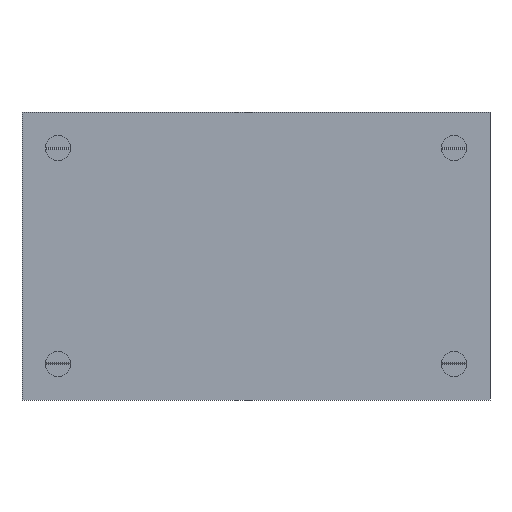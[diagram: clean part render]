
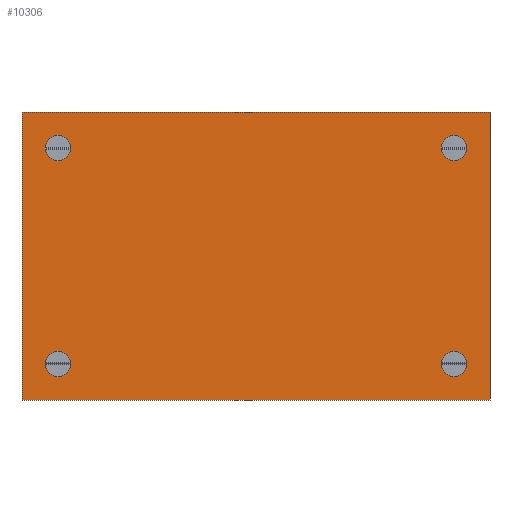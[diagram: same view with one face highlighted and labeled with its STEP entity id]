
A CAD part, front view. The second image highlights one B-rep face of the part: STEP entity #10306.
In plain terms, the highlighted planar face has unit normal (0, -1, 0).
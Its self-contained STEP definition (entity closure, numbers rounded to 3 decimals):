
#350=CIRCLE('',#10914,1.75);
#351=CIRCLE('',#10915,1.75);
#352=CIRCLE('',#10916,1.75);
#353=CIRCLE('',#10917,1.75);
#1058=ORIENTED_EDGE('',*,*,#4219,.T.);
#1059=ORIENTED_EDGE('',*,*,#4220,.F.);
#1060=ORIENTED_EDGE('',*,*,#4221,.F.);
#1061=ORIENTED_EDGE('',*,*,#4222,.F.);
#1062=ORIENTED_EDGE('',*,*,#4172,.T.);
#1063=ORIENTED_EDGE('',*,*,#4223,.F.);
#1064=ORIENTED_EDGE('',*,*,#4224,.F.);
#1065=ORIENTED_EDGE('',*,*,#4217,.T.);
#4172=EDGE_CURVE('',#5759,#5758,#6826,.T.);
#4217=EDGE_CURVE('',#5794,#5759,#6869,.T.);
#4219=EDGE_CURVE('',#5795,#5795,#350,.T.);
#4220=EDGE_CURVE('',#5796,#5796,#351,.T.);
#4221=EDGE_CURVE('',#5797,#5797,#352,.T.);
#4222=EDGE_CURVE('',#5798,#5798,#353,.T.);
#4223=EDGE_CURVE('',#5799,#5758,#6871,.T.);
#4224=EDGE_CURVE('',#5794,#5799,#6872,.T.);
#5758=VERTEX_POINT('',#15540);
#5759=VERTEX_POINT('',#15542);
#5794=VERTEX_POINT('',#15629);
#5795=VERTEX_POINT('',#15633);
#5796=VERTEX_POINT('',#15635);
#5797=VERTEX_POINT('',#15637);
#5798=VERTEX_POINT('',#15639);
#5799=VERTEX_POINT('',#15641);
#6826=LINE('',#15541,#7788);
#6869=LINE('',#15628,#7831);
#6871=LINE('',#15640,#7833);
#6872=LINE('',#15642,#7834);
#7788=VECTOR('',#12143,1000.);
#7831=VECTOR('',#12204,1000.);
#7833=VECTOR('',#12216,1000.);
#7834=VECTOR('',#12217,1000.);
#8735=EDGE_LOOP('',(#1058));
#8736=EDGE_LOOP('',(#1059));
#8737=EDGE_LOOP('',(#1060));
#8738=EDGE_LOOP('',(#1061));
#8739=EDGE_LOOP('',(#1062,#1063,#1064,#1065));
#9391=FACE_BOUND('',#8735,.T.);
#9392=FACE_BOUND('',#8736,.T.);
#9393=FACE_BOUND('',#8737,.T.);
#9394=FACE_BOUND('',#8738,.T.);
#9395=FACE_BOUND('',#8739,.T.);
#10045=PLANE('',#10913);
#10306=ADVANCED_FACE('',(#9391,#9392,#9393,#9394,#9395),#10045,.F.);
#10913=AXIS2_PLACEMENT_3D('',#15631,#12206,#12207);
#10914=AXIS2_PLACEMENT_3D('',#15632,#12208,#12209);
#10915=AXIS2_PLACEMENT_3D('',#15634,#12210,#12211);
#10916=AXIS2_PLACEMENT_3D('',#15636,#12212,#12213);
#10917=AXIS2_PLACEMENT_3D('',#15638,#12214,#12215);
#12143=DIRECTION('',(0.,0.,-1.));
#12204=DIRECTION('',(-1.,0.,0.));
#12206=DIRECTION('',(0.,1.,0.));
#12207=DIRECTION('',(0.,0.,1.));
#12208=DIRECTION('',(0.,1.,0.));
#12209=DIRECTION('',(0.,0.,1.));
#12210=DIRECTION('',(0.,-1.,0.));
#12211=DIRECTION('',(0.,0.,-1.));
#12212=DIRECTION('',(0.,-1.,0.));
#12213=DIRECTION('',(0.,0.,-1.));
#12214=DIRECTION('',(0.,-1.,0.));
#12215=DIRECTION('',(0.,0.,-1.));
#12216=DIRECTION('',(-1.,0.,0.));
#12217=DIRECTION('',(0.,0.,-1.));
#15540=CARTESIAN_POINT('',(0.,0.,-20.));
#15541=CARTESIAN_POINT('',(0.,0.,20.));
#15542=CARTESIAN_POINT('',(0.,0.,20.));
#15628=CARTESIAN_POINT('',(65.,0.,20.));
#15629=CARTESIAN_POINT('',(65.,0.,20.));
#15631=CARTESIAN_POINT('',(65.,0.,20.));
#15632=CARTESIAN_POINT('',(60.,0.,15.));
#15633=CARTESIAN_POINT('',(60.,0.,16.75));
#15634=CARTESIAN_POINT('',(60.,0.,-15.));
#15635=CARTESIAN_POINT('',(60.,0.,-16.75));
#15636=CARTESIAN_POINT('',(5.,0.,-15.));
#15637=CARTESIAN_POINT('',(5.,0.,-16.75));
#15638=CARTESIAN_POINT('',(5.,0.,15.));
#15639=CARTESIAN_POINT('',(5.,0.,13.25));
#15640=CARTESIAN_POINT('',(65.,0.,-20.));
#15641=CARTESIAN_POINT('',(65.,0.,-20.));
#15642=CARTESIAN_POINT('',(65.,0.,20.));
